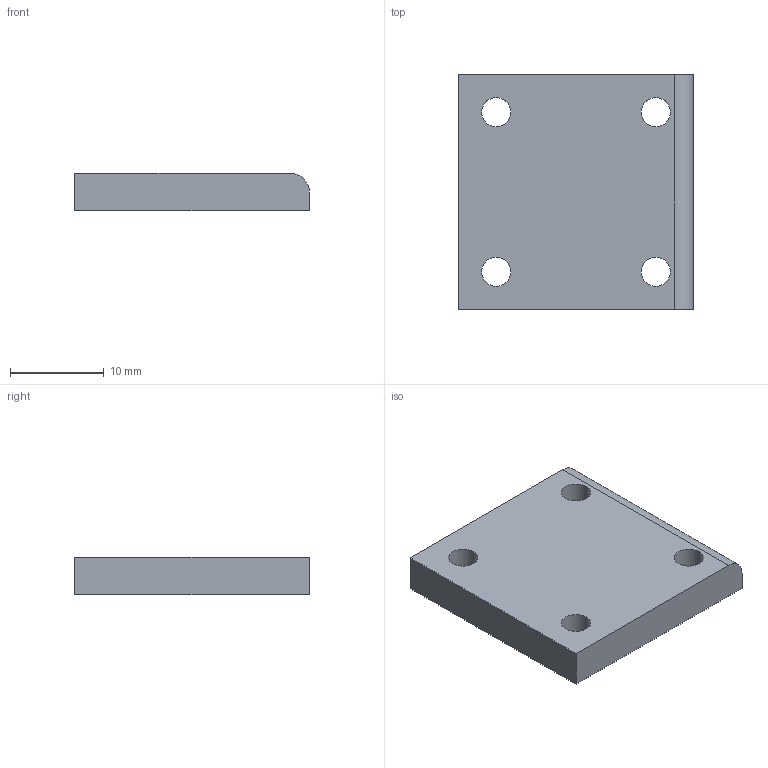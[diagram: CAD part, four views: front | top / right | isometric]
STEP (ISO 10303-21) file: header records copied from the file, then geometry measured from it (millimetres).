
FILE_DESCRIPTION (( 'STEP AP203' ), '1' );
FILE_NAME ('flat-spring-cover1.STEP', '2024-07-01T06:58:22', ( '' ), ( '' ), 'SwSTEP 2.0', 'SolidWorks 2021', '' );
FILE_SCHEMA (( 'CONFIG_CONTROL_DESIGN' ));
Length unit declared in the file: millimetre
Products named in the file (1): flat-spring-cover1
Bounding box: 25 x 25 x 4 mm (x, y, z)
Volume: 2357.8 mm3; surface area: 1722.3 mm2
Topology: 1 solids, 1 shells, 15 faces, 39 edges, 26 vertices
Faces by surface type: cylinder 9, plane 6
Entity records: 564 total; most frequent: DIRECTION 89, CARTESIAN_POINT 81, ORIENTED_EDGE 78, EDGE_CURVE 39, AXIS2_PLACEMENT_3D 34, VERTEX_POINT 26, EDGE_LOOP 23, LINE 21
